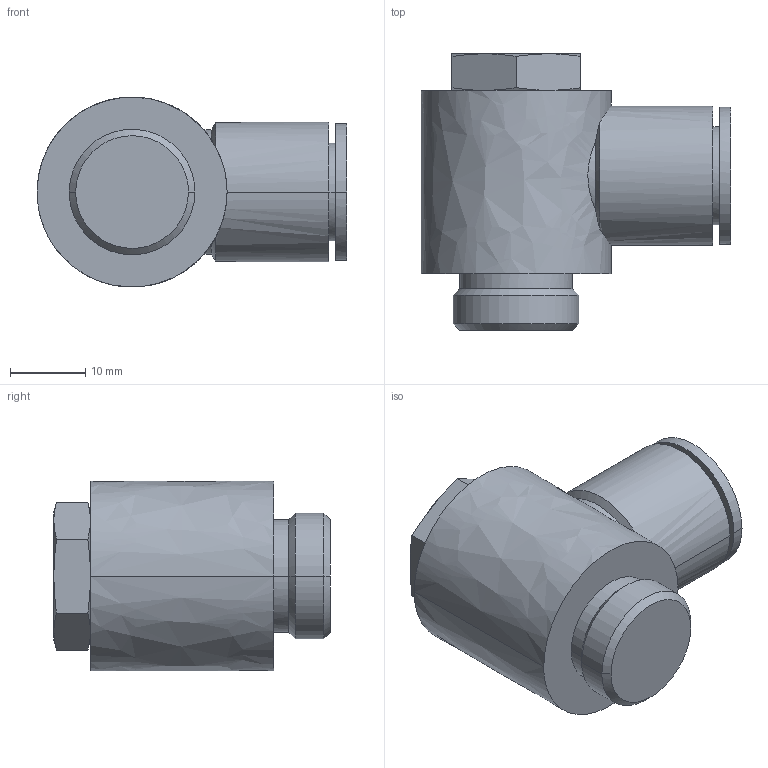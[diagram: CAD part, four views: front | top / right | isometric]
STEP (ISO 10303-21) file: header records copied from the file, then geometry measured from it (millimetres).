
FILE_DESCRIPTION (( 'STEP AP214' ), '1' );
FILE_NAME ('KQ2V12-G03A.STEP', '2023-03-09T03:02:57', ( 'Windows User' ), ( 'P R C' ), 'SwSTEP 2.0', 'SolidWorks 2019', '' );
FILE_SCHEMA (( 'AUTOMOTIVE_DESIGN' ));
Length unit declared in the file: millimetre
Products named in the file (1): KQ2V12-G03A
Bounding box: 41.1 x 36.7 x 25.18 mm (x, y, z)
Volume: 17286.2 mm3; surface area: 5581.3 mm2
Topology: 1 solids, 1 shells, 41 faces, 93 edges, 60 vertices
Faces by surface type: bspline 26, plane 15
Entity records: 1829 total; most frequent: CARTESIAN_POINT 1187, ORIENTED_EDGE 186, EDGE_CURVE 93, B_SPLINE_CURVE_WITH_KNOTS 67, VERTEX_POINT 60, EDGE_LOOP 47, FACE_OUTER_BOUND 41, ADVANCED_FACE 41
